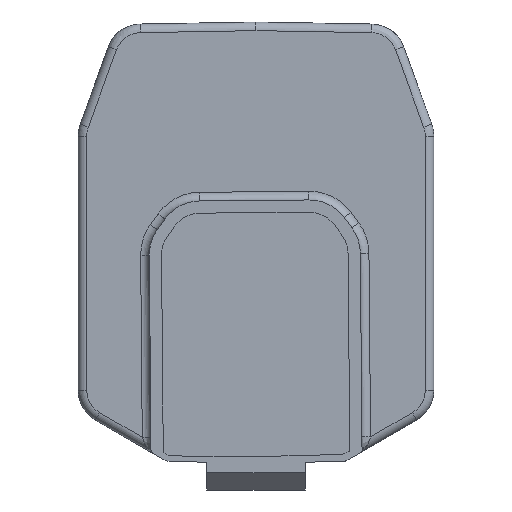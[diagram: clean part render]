
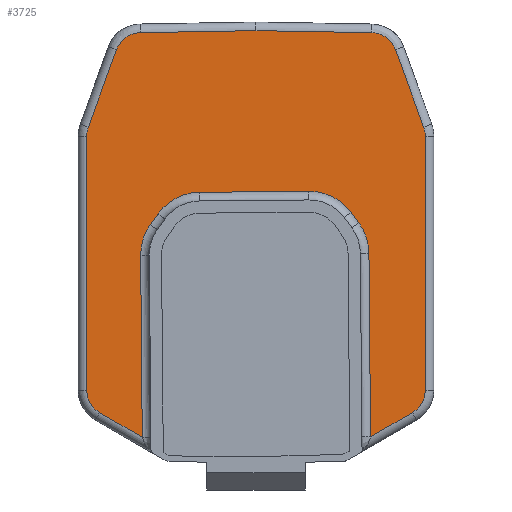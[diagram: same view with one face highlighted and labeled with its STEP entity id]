
A CAD part, front view. The second image highlights one B-rep face of the part: STEP entity #3725.
In plain terms, the highlighted planar face has unit normal (0, -1, 0).
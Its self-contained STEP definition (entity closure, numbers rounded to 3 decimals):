
#69=B_SPLINE_CURVE_WITH_KNOTS('',3,(#5279,#5280,#5281,#5282,#5283),
 .UNSPECIFIED.,.F.,.F.,(4,1,4),(0.,0.005,0.009),
 .UNSPECIFIED.);
#70=B_SPLINE_CURVE_WITH_KNOTS('',3,(#5289,#5290,#5291,#5292,#5293),
 .UNSPECIFIED.,.F.,.F.,(4,1,4),(0.,0.005,0.009),
 .UNSPECIFIED.);
#172=CIRCLE('',#3918,15.04);
#173=CIRCLE('',#3919,7.5);
#174=CIRCLE('',#3920,7.5);
#175=CIRCLE('',#3921,7.5);
#176=CIRCLE('',#3922,7.5);
#177=CIRCLE('',#3923,15.04);
#178=CIRCLE('',#3924,15.04);
#179=CIRCLE('',#3925,15.04);
#458=ORIENTED_EDGE('',*,*,#1191,.T.);
#459=ORIENTED_EDGE('',*,*,#1192,.T.);
#460=ORIENTED_EDGE('',*,*,#1193,.T.);
#461=ORIENTED_EDGE('',*,*,#1194,.T.);
#462=ORIENTED_EDGE('',*,*,#1195,.T.);
#463=ORIENTED_EDGE('',*,*,#1196,.T.);
#464=ORIENTED_EDGE('',*,*,#1197,.T.);
#465=ORIENTED_EDGE('',*,*,#1198,.T.);
#466=ORIENTED_EDGE('',*,*,#1199,.T.);
#467=ORIENTED_EDGE('',*,*,#1200,.T.);
#468=ORIENTED_EDGE('',*,*,#1201,.T.);
#469=ORIENTED_EDGE('',*,*,#1202,.T.);
#470=ORIENTED_EDGE('',*,*,#1203,.T.);
#471=ORIENTED_EDGE('',*,*,#1204,.T.);
#472=ORIENTED_EDGE('',*,*,#1205,.T.);
#473=ORIENTED_EDGE('',*,*,#1206,.T.);
#474=ORIENTED_EDGE('',*,*,#1207,.T.);
#475=ORIENTED_EDGE('',*,*,#1208,.T.);
#476=ORIENTED_EDGE('',*,*,#1209,.T.);
#477=ORIENTED_EDGE('',*,*,#1210,.T.);
#478=ORIENTED_EDGE('',*,*,#1211,.T.);
#479=ORIENTED_EDGE('',*,*,#1212,.T.);
#480=ORIENTED_EDGE('',*,*,#1213,.T.);
#1191=EDGE_CURVE('',#1547,#1548,#172,.F.);
#1192=EDGE_CURVE('',#1548,#1549,#1795,.T.);
#1193=EDGE_CURVE('',#1549,#1550,#1796,.T.);
#1194=EDGE_CURVE('',#1550,#1551,#173,.T.);
#1195=EDGE_CURVE('',#1551,#1552,#1797,.T.);
#1196=EDGE_CURVE('',#1552,#1553,#174,.T.);
#1197=EDGE_CURVE('',#1553,#1554,#1798,.T.);
#1198=EDGE_CURVE('',#1554,#1555,#69,.T.);
#1199=EDGE_CURVE('',#1555,#1556,#1799,.T.);
#1200=EDGE_CURVE('',#1556,#1557,#1800,.T.);
#1201=EDGE_CURVE('',#1557,#1558,#70,.T.);
#1202=EDGE_CURVE('',#1558,#1559,#1801,.T.);
#1203=EDGE_CURVE('',#1559,#1560,#175,.T.);
#1204=EDGE_CURVE('',#1560,#1561,#1802,.T.);
#1205=EDGE_CURVE('',#1561,#1562,#176,.T.);
#1206=EDGE_CURVE('',#1562,#1563,#1803,.T.);
#1207=EDGE_CURVE('',#1563,#1564,#1804,.T.);
#1208=EDGE_CURVE('',#1564,#1565,#177,.F.);
#1209=EDGE_CURVE('',#1565,#1566,#1805,.T.);
#1210=EDGE_CURVE('',#1566,#1567,#178,.F.);
#1211=EDGE_CURVE('',#1567,#1568,#1806,.T.);
#1212=EDGE_CURVE('',#1568,#1569,#179,.F.);
#1213=EDGE_CURVE('',#1569,#1547,#1807,.T.);
#1547=VERTEX_POINT('',#5265);
#1548=VERTEX_POINT('',#5266);
#1549=VERTEX_POINT('',#5268);
#1550=VERTEX_POINT('',#5270);
#1551=VERTEX_POINT('',#5272);
#1552=VERTEX_POINT('',#5274);
#1553=VERTEX_POINT('',#5276);
#1554=VERTEX_POINT('',#5278);
#1555=VERTEX_POINT('',#5284);
#1556=VERTEX_POINT('',#5286);
#1557=VERTEX_POINT('',#5288);
#1558=VERTEX_POINT('',#5294);
#1559=VERTEX_POINT('',#5296);
#1560=VERTEX_POINT('',#5298);
#1561=VERTEX_POINT('',#5300);
#1562=VERTEX_POINT('',#5302);
#1563=VERTEX_POINT('',#5304);
#1564=VERTEX_POINT('',#5306);
#1565=VERTEX_POINT('',#5308);
#1566=VERTEX_POINT('',#5310);
#1567=VERTEX_POINT('',#5312);
#1568=VERTEX_POINT('',#5314);
#1569=VERTEX_POINT('',#5316);
#1795=LINE('',#5267,#2038);
#1796=LINE('',#5269,#2039);
#1797=LINE('',#5273,#2040);
#1798=LINE('',#5277,#2041);
#1799=LINE('',#5285,#2042);
#1800=LINE('',#5287,#2043);
#1801=LINE('',#5295,#2044);
#1802=LINE('',#5299,#2045);
#1803=LINE('',#5303,#2046);
#1804=LINE('',#5305,#2047);
#1805=LINE('',#5309,#2048);
#1806=LINE('',#5313,#2049);
#1807=LINE('',#5317,#2050);
#2038=VECTOR('',#4377,1000.);
#2039=VECTOR('',#4378,1000.);
#2040=VECTOR('',#4381,1000.);
#2041=VECTOR('',#4384,1000.);
#2042=VECTOR('',#4385,1000.);
#2043=VECTOR('',#4386,1000.);
#2044=VECTOR('',#4387,1000.);
#2045=VECTOR('',#4390,1000.);
#2046=VECTOR('',#4393,1000.);
#2047=VECTOR('',#4394,1000.);
#2048=VECTOR('',#4397,1000.);
#2049=VECTOR('',#4400,1000.);
#2050=VECTOR('',#4403,1000.);
#2220=EDGE_LOOP('',(#458,#459,#460,#461,#462,#463,#464,#465,#466,#467,#468,
#469,#470,#471,#472,#473,#474,#475,#476,#477,#478,#479,#480));
#2385=FACE_BOUND('',#2220,.T.);
#2534=PLANE('',#3917);
#3725=ADVANCED_FACE('',(#2385),#2534,.T.);
#3917=AXIS2_PLACEMENT_3D('',#5263,#4373,#4374);
#3918=AXIS2_PLACEMENT_3D('',#5264,#4375,#4376);
#3919=AXIS2_PLACEMENT_3D('',#5271,#4379,#4380);
#3920=AXIS2_PLACEMENT_3D('',#5275,#4382,#4383);
#3921=AXIS2_PLACEMENT_3D('',#5297,#4388,#4389);
#3922=AXIS2_PLACEMENT_3D('',#5301,#4391,#4392);
#3923=AXIS2_PLACEMENT_3D('',#5307,#4395,#4396);
#3924=AXIS2_PLACEMENT_3D('',#5311,#4398,#4399);
#3925=AXIS2_PLACEMENT_3D('',#5315,#4401,#4402);
#4373=DIRECTION('',(0.,-1.,0.));
#4374=DIRECTION('',(0.,0.,-1.));
#4375=DIRECTION('',(0.,-1.,0.));
#4376=DIRECTION('',(0.,0.,-1.));
#4377=DIRECTION('',(0.009,0.,-1.));
#4378=DIRECTION('',(0.866,0.,0.5));
#4379=DIRECTION('',(0.,-1.,0.));
#4380=DIRECTION('',(0.,0.,-1.));
#4381=DIRECTION('',(0.,0.,1.));
#4382=DIRECTION('',(0.,-1.,0.));
#4383=DIRECTION('',(0.,0.,-1.));
#4384=DIRECTION('',(-0.342,0.,0.94));
#4385=DIRECTION('',(-1.,0.,0.017));
#4386=DIRECTION('',(-1.,0.,-0.017));
#4387=DIRECTION('',(-0.342,0.,-0.94));
#4388=DIRECTION('',(0.,-1.,0.));
#4389=DIRECTION('',(0.,0.,-1.));
#4390=DIRECTION('',(0.,0.,-1.));
#4391=DIRECTION('',(0.,-1.,0.));
#4392=DIRECTION('',(0.,0.,-1.));
#4393=DIRECTION('',(0.866,0.,-0.5));
#4394=DIRECTION('',(-0.009,0.,1.));
#4395=DIRECTION('',(0.,-1.,0.));
#4396=DIRECTION('',(0.,0.,-1.));
#4397=DIRECTION('',(0.581,0.,0.814));
#4398=DIRECTION('',(0.,-1.,0.));
#4399=DIRECTION('',(0.,0.,-1.));
#4400=DIRECTION('',(1.,0.,0.009));
#4401=DIRECTION('',(0.,-1.,0.));
#4402=DIRECTION('',(0.,0.,-1.));
#4403=DIRECTION('',(0.595,0.,-0.804));
#5263=CARTESIAN_POINT('',(33.33,-52.5,85.318));
#5264=CARTESIAN_POINT('',(17.649,-52.5,28.866));
#5265=CARTESIAN_POINT('',(29.739,-52.5,37.813));
#5266=CARTESIAN_POINT('',(32.688,-52.5,28.998));
#5267=CARTESIAN_POINT('',(33.165,-52.5,-25.578));
#5268=CARTESIAN_POINT('',(33.153,-52.5,-24.163));
#5269=CARTESIAN_POINT('',(45.247,-52.5,-17.181));
#5270=CARTESIAN_POINT('',(45.247,-52.5,-17.181));
#5271=CARTESIAN_POINT('',(41.497,-52.5,-10.686));
#5272=CARTESIAN_POINT('',(48.997,-52.5,-10.686));
#5273=CARTESIAN_POINT('',(48.997,-52.5,62.882));
#5274=CARTESIAN_POINT('',(48.997,-52.5,62.882));
#5275=CARTESIAN_POINT('',(41.497,-52.5,62.882));
#5276=CARTESIAN_POINT('',(48.544,-52.5,65.447));
#5277=CARTESIAN_POINT('',(40.378,-52.5,87.883));
#5278=CARTESIAN_POINT('',(40.378,-52.5,87.883));
#5279=CARTESIAN_POINT('',(40.378,-52.5,87.883));
#5280=CARTESIAN_POINT('',(39.859,-52.5,89.31));
#5281=CARTESIAN_POINT('',(37.941,-52.5,91.804));
#5282=CARTESIAN_POINT('',(34.979,-52.5,92.787));
#5283=CARTESIAN_POINT('',(33.462,-52.5,92.814));
#5284=CARTESIAN_POINT('',(33.462,-52.5,92.814));
#5285=CARTESIAN_POINT('',(-0.047,-52.5,93.399));
#5286=CARTESIAN_POINT('',(-0.003,-52.5,93.398));
#5287=CARTESIAN_POINT('',(-33.468,-52.5,92.814));
#5288=CARTESIAN_POINT('',(-33.469,-52.5,92.814));
#5289=CARTESIAN_POINT('',(-33.469,-52.5,92.814));
#5290=CARTESIAN_POINT('',(-34.986,-52.5,92.787));
#5291=CARTESIAN_POINT('',(-37.97,-52.5,91.788));
#5292=CARTESIAN_POINT('',(-39.866,-52.5,89.31));
#5293=CARTESIAN_POINT('',(-40.385,-52.5,87.883));
#5294=CARTESIAN_POINT('',(-40.385,-52.5,87.883));
#5295=CARTESIAN_POINT('',(-48.551,-52.5,65.447));
#5296=CARTESIAN_POINT('',(-48.551,-52.5,65.447));
#5297=CARTESIAN_POINT('',(-41.503,-52.5,62.882));
#5298=CARTESIAN_POINT('',(-49.003,-52.5,62.882));
#5299=CARTESIAN_POINT('',(-49.003,-52.5,-10.686));
#5300=CARTESIAN_POINT('',(-49.003,-52.5,-10.686));
#5301=CARTESIAN_POINT('',(-41.503,-52.5,-10.686));
#5302=CARTESIAN_POINT('',(-45.253,-52.5,-17.181));
#5303=CARTESIAN_POINT('',(-29.141,-52.5,-26.484));
#5304=CARTESIAN_POINT('',(-32.929,-52.5,-24.297));
#5305=CARTESIAN_POINT('',(-33.389,-52.5,28.421));
#5306=CARTESIAN_POINT('',(-33.389,-52.5,28.421));
#5307=CARTESIAN_POINT('',(-18.35,-52.5,28.552));
#5308=CARTESIAN_POINT('',(-30.594,-52.5,37.286));
#5309=CARTESIAN_POINT('',(-28.441,-52.5,40.305));
#5310=CARTESIAN_POINT('',(-28.441,-52.5,40.305));
#5311=CARTESIAN_POINT('',(-16.196,-52.5,31.571));
#5312=CARTESIAN_POINT('',(-16.328,-52.5,46.61));
#5313=CARTESIAN_POINT('',(15.312,-52.5,46.887));
#5314=CARTESIAN_POINT('',(15.312,-52.5,46.887));
#5315=CARTESIAN_POINT('',(15.443,-52.5,31.847));
#5316=CARTESIAN_POINT('',(27.533,-52.5,40.793));
#5317=CARTESIAN_POINT('',(29.739,-52.5,37.813));
